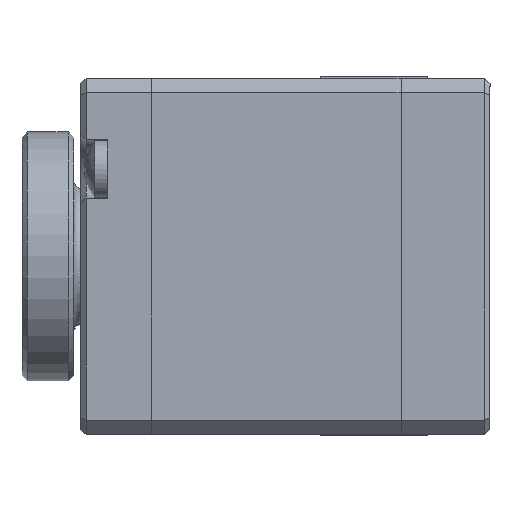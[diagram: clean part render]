
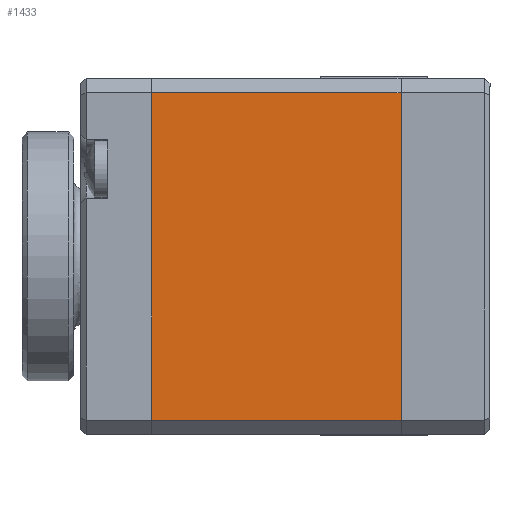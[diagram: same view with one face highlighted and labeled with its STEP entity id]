
A CAD part, front view. The second image highlights one B-rep face of the part: STEP entity #1433.
In plain terms, the highlighted planar face has unit normal (0, -1, 0).
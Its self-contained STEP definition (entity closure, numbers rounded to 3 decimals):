
#15 = FACE_OUTER_BOUND ( 'NONE', #1177, .T. ) ;
#203 = ORIENTED_EDGE ( 'NONE', *, *, #22770, .F. ) ;
#509 = CARTESIAN_POINT ( 'NONE',  ( 0.5, -17., -9.2 ) ) ;
#749 = VECTOR ( 'NONE', #15524, 1000. ) ;
#1177 = EDGE_LOOP ( 'NONE', ( #16888, #24125, #203, #24943 ) ) ;
#1433 = ADVANCED_FACE ( 'NONE', ( #15 ), #2124, .F. ) ;
#2124 = PLANE ( 'NONE',  #8651 ) ;
#2928 = LINE ( 'NONE', #19364, #12793 ) ;
#3064 = DIRECTION ( 'NONE',  ( -1., 0., 0. ) ) ;
#3274 = EDGE_CURVE ( 'NONE', #20055, #15381, #19408, .T. ) ;
#4182 = CARTESIAN_POINT ( 'NONE',  ( 0.5, -17., 9.2 ) ) ;
#4252 = CARTESIAN_POINT ( 'NONE',  ( 14.5, -17., -9.2 ) ) ;
#4678 = VECTOR ( 'NONE', #4977, 1000. ) ;
#4977 = DIRECTION ( 'NONE',  ( 1., 0., 0. ) ) ;
#5108 = CARTESIAN_POINT ( 'NONE',  ( 15., -17., -9.2 ) ) ;
#8651 = AXIS2_PLACEMENT_3D ( 'NONE', #21877, #15807, #22153 ) ;
#8984 = CARTESIAN_POINT ( 'NONE',  ( 14.5, -17., 9.2 ) ) ;
#9567 = CARTESIAN_POINT ( 'NONE',  ( 0.5, -17., -9.2 ) ) ;
#11195 = EDGE_CURVE ( 'NONE', #18945, #14479, #2928, .T. ) ;
#12793 = VECTOR ( 'NONE', #3064, 1000. ) ;
#13740 = EDGE_CURVE ( 'NONE', #18945, #15381, #25701, .T. ) ;
#13836 = LINE ( 'NONE', #9567, #19623 ) ;
#14479 = VERTEX_POINT ( 'NONE', #4182 ) ;
#15381 = VERTEX_POINT ( 'NONE', #4252 ) ;
#15524 = DIRECTION ( 'NONE',  ( 0., 0., -1. ) ) ;
#15807 = DIRECTION ( 'NONE',  ( 0., 1., 0. ) ) ;
#16888 = ORIENTED_EDGE ( 'NONE', *, *, #13740, .F. ) ;
#18945 = VERTEX_POINT ( 'NONE', #8984 ) ;
#19364 = CARTESIAN_POINT ( 'NONE',  ( 15., -17., 9.2 ) ) ;
#19408 = LINE ( 'NONE', #5108, #4678 ) ;
#19623 = VECTOR ( 'NONE', #21753, 1000. ) ;
#20055 = VERTEX_POINT ( 'NONE', #509 ) ;
#21461 = CARTESIAN_POINT ( 'NONE',  ( 14.5, -17., 9.2 ) ) ;
#21753 = DIRECTION ( 'NONE',  ( 0., 0., 1. ) ) ;
#21877 = CARTESIAN_POINT ( 'NONE',  ( 15., -17., -10. ) ) ;
#22153 = DIRECTION ( 'NONE',  ( 1., 0., 0. ) ) ;
#22770 = EDGE_CURVE ( 'NONE', #20055, #14479, #13836, .T. ) ;
#24125 = ORIENTED_EDGE ( 'NONE', *, *, #11195, .T. ) ;
#24943 = ORIENTED_EDGE ( 'NONE', *, *, #3274, .T. ) ;
#25701 = LINE ( 'NONE', #21461, #749 ) ;
